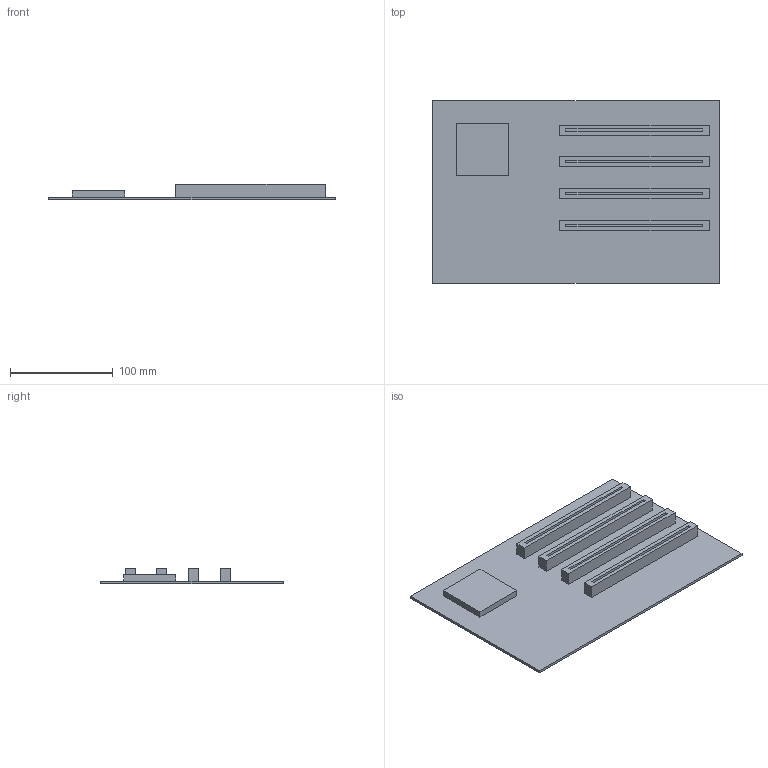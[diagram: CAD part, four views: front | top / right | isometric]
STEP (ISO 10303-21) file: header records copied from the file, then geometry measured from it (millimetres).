
FILE_DESCRIPTION (( 'STEP AP214' ), '1' );
FILE_NAME ('complete board.STEP', '2006-10-03T18:33:02', ( 'ALGOR' ), ( 'ALGOR Inc.' ), 'SwSTEP 2.0', 'SolidWorks 2007', '' );
FILE_SCHEMA (( 'AUTOMOTIVE_DESIGN' ));
Length unit declared in the file: inch
Products named in the file (4): processor; ram; complete board; Circuit Board
Assembly tree (6 placements, depth 2):
  complete board
    ram  x4
    processor
    Circuit Board
Bounding box: 279.4 x 177.8 x 15.24 mm (x, y, z)
Volume: 209344.7 mm3; surface area: 142773.9 mm2
Topology: 6 solids, 6 shells, 56 faces, 120 edges, 80 vertices
Faces by surface type: plane 56
Entity records: 761 total; most frequent: CARTESIAN_POINT 112, DIRECTION 112, ORIENTED_EDGE 96, EDGE_CURVE 48, LINE 48, VECTOR 48, VERTEX_POINT 32, AXIS2_PLACEMENT_3D 32
